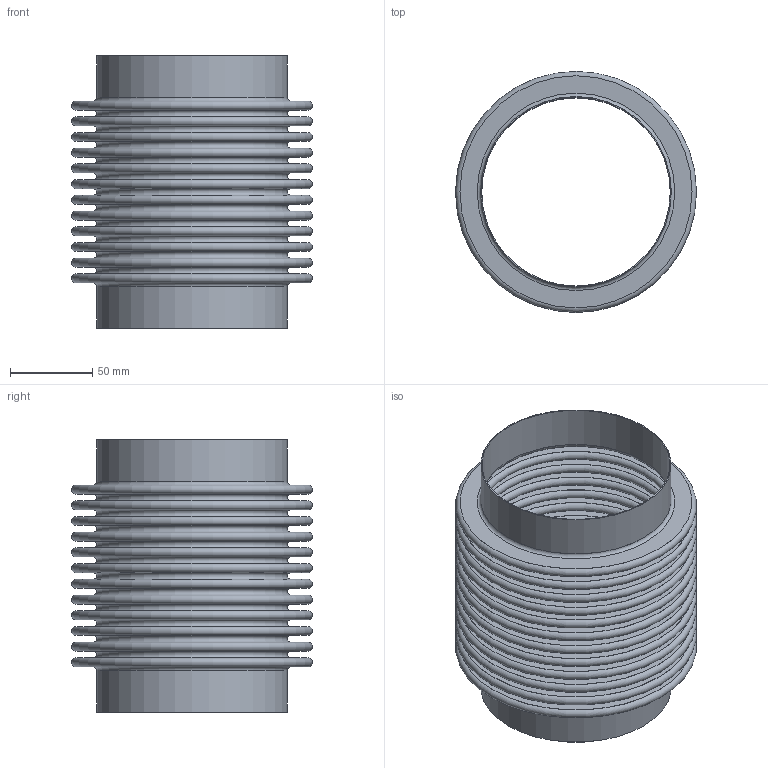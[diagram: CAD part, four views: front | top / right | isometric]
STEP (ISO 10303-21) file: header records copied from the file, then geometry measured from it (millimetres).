
FILE_DESCRIPTION(/* description */ (''),/* implementation_level */ '2;1');
FILE_NAME(/* name */ 'US-4-12-85L.stp',/* time_stamp */ '2026-07-21T11:10:02-05:00',/* author */ ('linda'),/* organization */ (''),/* preprocessor_version */ 'ST-DEVELOPER v20.1',/* originating_system */ 'Autodesk Inventor 2026',/* authorisation */ '');
FILE_SCHEMA (('AUTOMOTIVE_DESIGN { 1 0 10303 214 3 1 1 }'));
Length unit declared in the file: inch
Products named in the file (1): Part3
Bounding box: 146.05 x 146.05 x 165.1 mm (x, y, z)
Volume: 118780.1 mm3; surface area: 391018.9 mm2
Topology: 3 solids, 3 shells, 108 faces, 162 edges, 109 vertices
Faces by surface type: plane 54, torus 50, cylinder 4
Full cylindrical faces by diameter (mm): 114.3 x2, 115.519 x2
Entity records: 2667 total; most frequent: DIRECTION 538, CARTESIAN_POINT 380, ORIENTED_EDGE 324, AXIS2_PLACEMENT_3D 267, EDGE_LOOP 162, EDGE_CURVE 162, CIRCLE 158, STYLED_ITEM 111
